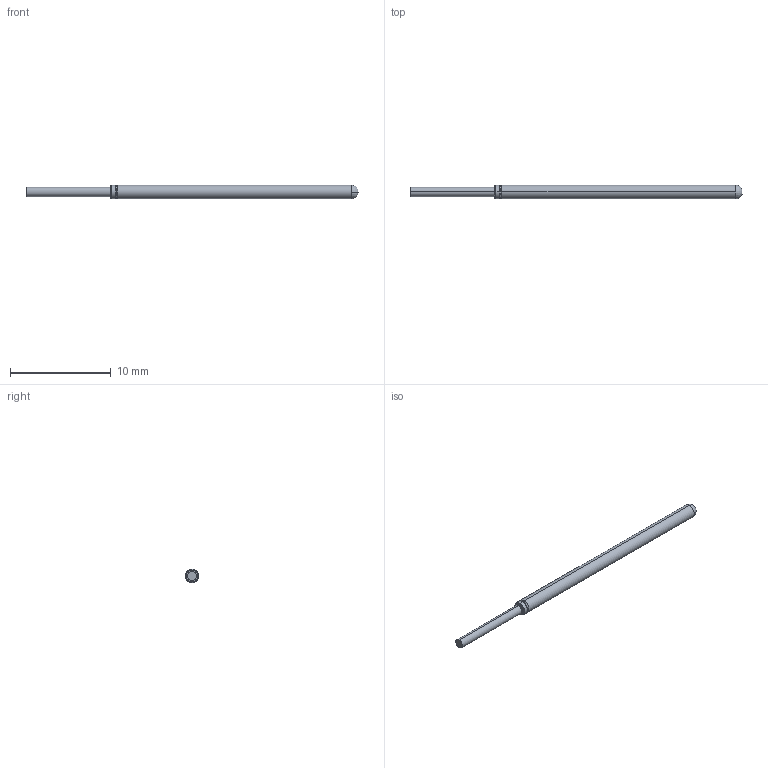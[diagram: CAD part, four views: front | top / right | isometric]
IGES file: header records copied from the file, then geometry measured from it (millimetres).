
Start section: SolidWorks IGES file using analytic representation for surfaces
Global section: file name: Z:\probe solid model mockups\Solidworks models\POGO-25 IGS files\POGO-25Default.IGS; native system: SolidWorks 2006 by SolidWorks Corporation; preprocessor: SolidWorks 2006 by SolidWorks Corporation; author: tsakatani; date: 071214.083858; units: inch
Bounding box: 33.02 x 1.37 x 1.37 mm (x, y, z)
Surface area: 131.9 mm2 (no closed solid volume)
Topology: 0 solids, 0 shells, 19 faces, 132 edges, 132 vertices
Faces by surface type: revolution 12, bspline 7
